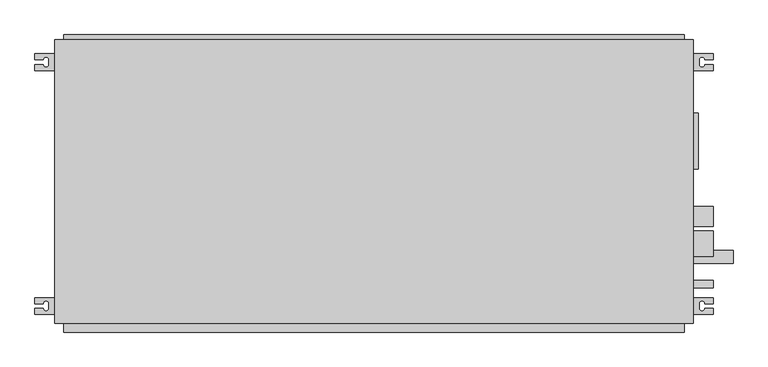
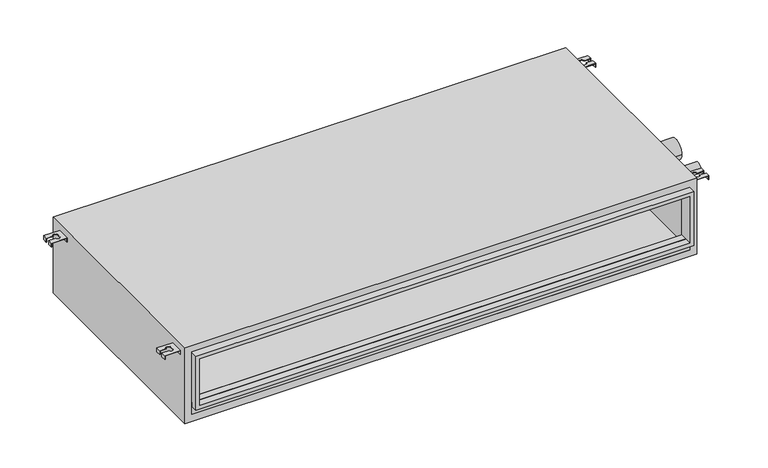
"""IFC4 building model written with IfcOpenShell, lengths in millimetres: proxy geometry, PEFY-P-NMAU-E_Medium_Static_Ducted : PEFY-P54NMAU-E."""

import ifcopenshell
import ifcopenshell.guid

model = None  # the IFC model being written
_history = None  # IfcOwnerHistory: only IFC2X3 demands one
_inside = {}  # id of a spatial element -> (the spatial element, [elements in it])
_under = {}  # id of a project, library or spatial element -> (it, [spatial elements below it])
_declared = {}  # id of a project -> (the project, [libraries it declares])
_typed = {}  # id of a type object -> (the type object, [elements of that type])
_made_of = {}  # id of a material, layer set ... -> (it, [elements and type objects made of it])


def new_model(schema):
    """Start an empty IFC model of exactly this schema.

    Asked for "IFC4X3", IfcOpenShell would pick the latest addendum, in which some entities
    have other attributes; the version numbers below select the first issue.
    IFC2X3 requires an IfcOwnerHistory on every rooted entity: one is made here for all.
    """
    global model, _history
    if schema == "IFC4X3":
        model = ifcopenshell.file(schema_version=(4, 3, 0, 0))
    else:
        model = ifcopenshell.file(schema=schema)
    _inside.clear()
    _under.clear()
    _declared.clear()
    _typed.clear()
    _made_of.clear()
    _history = None
    if model.schema == "IFC2X3":
        org = make("IfcOrganization", Name="unknown")
        user = make(
            "IfcPersonAndOrganization",
            ThePerson=make("IfcPerson", FamilyName="unknown"),
            TheOrganization=org,
        )
        app = make(
            "IfcApplication",
            ApplicationDeveloper=org,
            Version="unknown",
            ApplicationFullName="unknown",
            ApplicationIdentifier="unknown",
        )
        _history = make(
            "IfcOwnerHistory",
            OwningUser=user,
            OwningApplication=app,
            ChangeAction="ADDED",
            CreationDate=0,
        )
    return model


def make(cls, **values):
    """One entity of the class cls with the attributes given. An attribute that is None is left unset."""
    return model.create_entity(
        cls, **{name: value for name, value in values.items() if value is not None}
    )


def rooted(cls, **values):
    """An entity with a GlobalId (a new one), such as an element, a storey or a relation."""
    return make(cls, GlobalId=ifcopenshell.guid.new(), OwnerHistory=_history, **values)


def si_unit(unit_type, name, prefix=None):
    """IfcSIUnit, for example si_unit("LENGTHUNIT", "METRE", prefix="MILLI")."""
    return make("IfcSIUnit", UnitType=unit_type, Prefix=prefix, Name=name)


def assignment(units):
    """IfcUnitAssignment: the units of a project."""
    return None if units is None else make("IfcUnitAssignment", Units=units)


def point(xyz):
    """IfcCartesianPoint."""
    return None if xyz is None else make("IfcCartesianPoint", Coordinates=xyz)


def direction(xyz):
    """IfcDirection."""
    return None if xyz is None else make("IfcDirection", DirectionRatios=xyz)


def frame(location, z_axis=None, x_axis=None):
    """IfcAxis2Placement3D, a coordinate frame: its origin and axes. An axis left out is left unset."""
    return make(
        "IfcAxis2Placement3D",
        Location=point(location),
        Axis=direction(z_axis),
        RefDirection=direction(x_axis),
    )


def frame_2d(location, x_axis=None):
    """IfcAxis2Placement2D, a coordinate frame in the plane: its origin and x axis."""
    return make(
        "IfcAxis2Placement2D", Location=point(location), RefDirection=direction(x_axis)
    )


def origin():
    """The frame at (0, 0, 0) with its axes left unset."""
    return frame((0.0, 0.0, 0.0))


def place(relative_to, where):
    """IfcLocalPlacement: puts the frame where relative to a parent placement (None: the world)."""
    return make(
        "IfcLocalPlacement", PlacementRelTo=relative_to, RelativePlacement=where
    )


def context(
    kind, dimensions, precision=None, world=None, true_north=None, identifier=None
):
    """IfcGeometricRepresentationContext, for example the 3D "Model" context."""
    return make(
        "IfcGeometricRepresentationContext",
        ContextIdentifier=identifier,
        ContextType=kind,
        CoordinateSpaceDimension=dimensions,
        Precision=precision,
        WorldCoordinateSystem=world,
        TrueNorth=true_north,
    )


def project(units=None, contexts=None):
    """IfcProject with its units and contexts."""
    return rooted(
        "IfcProject",
        Name="project",
        RepresentationContexts=contexts,
        UnitsInContext=assignment(units),
    )


def spatial(cls, under=None, at=None, **own):
    """A site, building, storey or space (cls), placed at a placement, below another one or the project."""
    s = rooted(cls, ObjectPlacement=at, **own)
    if under is not None:
        _under.setdefault(under.id(), (under, []))[1].append(s)
    return s


def polyline(points):
    """IfcPolyline through the points."""
    return make("IfcPolyline", Points=[point(p) for p in points])


def circle_curve(where, radius):
    """IfcCircle in the frame where."""
    return make("IfcCircle", Position=where, Radius=radius)


def trimmed(basis, trim1, trim2, sense, master):
    """IfcTrimmedCurve: the piece of a basis curve between two trims."""
    return make(
        "IfcTrimmedCurve",
        BasisCurve=basis,
        Trim1=trim1,
        Trim2=trim2,
        SenseAgreement=sense,
        MasterRepresentation=master,
    )


def segment(curve, same_sense, transition):
    """IfcCompositeCurveSegment."""
    return make(
        "IfcCompositeCurveSegment",
        Transition=transition,
        SameSense=same_sense,
        ParentCurve=curve,
    )


def composite_curve(segments, self_intersect=None):
    """IfcCompositeCurve: segments joined end to end."""
    return make("IfcCompositeCurve", Segments=segments, SelfIntersect=self_intersect)


def outline(outer, holes=None, kind="AREA"):
    """IfcArbitraryClosedProfileDef: a profile drawn as a closed curve; with holes, ...WithVoids."""
    if holes is None:
        return make("IfcArbitraryClosedProfileDef", ProfileType=kind, OuterCurve=outer)
    return make(
        "IfcArbitraryProfileDefWithVoids",
        ProfileType=kind,
        OuterCurve=outer,
        InnerCurves=holes,
    )


def extrude(swept, where, along, depth):
    """IfcExtrudedAreaSolid: the profile swept, set in the frame where, extruded along a direction by depth."""
    return make(
        "IfcExtrudedAreaSolid",
        SweptArea=swept,
        Position=where,
        ExtrudedDirection=direction(along),
        Depth=depth,
    )


def shape(context_of_items, identifier, shape_type, items):
    """IfcShapeRepresentation: the items that make up one representation, for example the "Body"."""
    return make(
        "IfcShapeRepresentation",
        ContextOfItems=context_of_items,
        RepresentationIdentifier=identifier,
        RepresentationType=shape_type,
        Items=items,
    )


def source(mapping_origin, context_of_items, identifier, shape_type, items):
    """IfcRepresentationMap: a shape defined once, which mapped items show again and again."""
    return make(
        "IfcRepresentationMap",
        MappingOrigin=mapping_origin,
        MappedRepresentation=shape(context_of_items, identifier, shape_type, items),
    )


def transform(
    local_origin,
    x_axis=None,
    y_axis=None,
    z_axis=None,
    scale=None,
    scale2=None,
    scale3=None,
    uniform=True,
):
    """IfcCartesianTransformationOperator3D, or its non-uniform kind. x_axis, y_axis, z_axis: its Axis1, 2, 3."""
    if uniform:
        return make(
            "IfcCartesianTransformationOperator3D",
            Axis1=direction(x_axis),
            Axis2=direction(y_axis),
            LocalOrigin=point(local_origin),
            Scale=scale,
            Axis3=direction(z_axis),
        )
    return make(
        "IfcCartesianTransformationOperator3DnonUniform",
        Axis1=direction(x_axis),
        Axis2=direction(y_axis),
        LocalOrigin=point(local_origin),
        Scale=scale,
        Axis3=direction(z_axis),
        Scale2=scale2,
        Scale3=scale3,
    )


def mapped(mapping_source, mapping_target):
    """IfcMappedItem: shows the shape of a source again, moved by a transform."""
    return make(
        "IfcMappedItem", MappingSource=mapping_source, MappingTarget=mapping_target
    )


def made_of(thing, what):
    """Note that an element or type object is made of a material, layer set ...; save() writes the relation."""
    if what is not None:
        _made_of.setdefault(what.id(), (what, []))[1].append(thing)
    return thing


def element(
    cls,
    number,
    at=None,
    inside=None,
    cuts=None,
    type_object=None,
    material=None,
    context=None,
    identifier="Body",
    shape_type=None,
    held_by="IfcProductDefinitionShape",
    body=None,
    shapes=None,
    **own,
):
    """One element of the class cls, such as IfcWall. Its Tag is "e" and its number.

    at: its placement. inside: the storey or other place that contains it. cuts: it is an
    opening in that element (IfcRelVoidsElement). A single representation is given by context,
    identifier, shape_type and body (its items); several are given by shapes. held_by: the class
    of the entity that holds the representations. save() writes the other relations.
    """
    e = rooted(cls, Tag="e%d" % number, ObjectPlacement=at, **own)
    if body is not None:
        shapes = [shape(context, identifier, shape_type, body)]
    if shapes is not None:
        e.Representation = make(held_by, Representations=shapes)
    if inside is not None:
        _inside.setdefault(inside.id(), (inside, []))[1].append(e)
    if cuts is not None:
        rooted(
            "IfcRelVoidsElement", RelatingBuildingElement=cuts, RelatedOpeningElement=e
        )
    if type_object is not None:
        _typed.setdefault(type_object.id(), (type_object, []))[1].append(e)
    return made_of(e, material)


def aggregate(whole, parts):
    """IfcRelAggregates: a whole, such as a stair, and the parts it consists of."""
    return rooted("IfcRelAggregates", RelatingObject=whole, RelatedObjects=parts)


def save(model, path):
    """Write the relations noted so far, then the file.

    IfcRelAggregates (storeys below a building ...), IfcRelContainedInSpatialStructure (elements
    in a storey), IfcRelDefinesByType, IfcRelAssociatesMaterial and IfcRelDeclares: one each for
    every whole, place, type object, material and project.
    """
    for whole, parts in _under.values():
        aggregate(whole, parts)
    for where, things in _inside.values():
        rooted(
            "IfcRelContainedInSpatialStructure",
            RelatedElements=things,
            RelatingStructure=where,
        )
    for kind, things in _typed.values():
        rooted("IfcRelDefinesByType", RelatedObjects=things, RelatingType=kind)
    for what, things in _made_of.values():
        rooted("IfcRelAssociatesMaterial", RelatedObjects=things, RelatingMaterial=what)
    for by, libraries in _declared.values():
        rooted("IfcRelDeclares", RelatingContext=by, RelatedDefinitions=libraries)
    model.write(path)


def plane_surface(at):
    """IfcPlane: the flat surface through the origin of the frame at, square to its z axis."""
    return make("IfcPlane", Position=at)


def revolved_surface(curve, axis_point, axis_direction):
    """IfcSurfaceOfRevolution: the curve turned about the line through axis_point along axis_direction."""
    return make(
        "IfcSurfaceOfRevolution",
        SweptCurve=make("IfcArbitraryOpenProfileDef", ProfileType="CURVE", Curve=curve),
        AxisPosition=make("IfcAxis1Placement", Location=point(axis_point), Axis=direction(axis_direction)),
    )


def advanced_brep(points, edges, surfaces, faces):
    """IfcAdvancedBrep: a solid bounded by faces that lie on surfaces and meet in shared edges.

    An edge is (start, end): straight between two places in points (the first is 0);
    or (start, end, curve); or (start, end, curve, False) where it runs against its curve.
    A face is (place in surfaces, loops), or (place, loops, False) where it looks against
    its surface's normal. A loop lists edges by number (the first is 1), with a minus sign
    where the edge is run from its end to its start. The first loop is the outer one.
    """
    corners = [point(p) for p in points]
    vertices = [make("IfcVertexPoint", VertexGeometry=c) for c in corners]
    made = []
    for start, end, *more in edges:
        made.append(
            make(
                "IfcEdgeCurve",
                EdgeStart=vertices[start],
                EdgeEnd=vertices[end],
                EdgeGeometry=more[0] if more else make("IfcPolyline", Points=[corners[start], corners[end]]),
                SameSense=more[1] if len(more) > 1 else True,
            )
        )
    hull = []
    for where, loops, *sense in faces:
        bounds = []
        for j, loop in enumerate(loops):
            ring = [make("IfcOrientedEdge", EdgeElement=made[abs(k) - 1], Orientation=k > 0) for k in loop]
            bounds.append(
                make(
                    "IfcFaceOuterBound" if j == 0 else "IfcFaceBound",
                    Bound=make("IfcEdgeLoop", EdgeList=ring),
                    Orientation=True,
                )
            )
        hull.append(make("IfcAdvancedFace", Bounds=bounds, FaceSurface=surfaces[where], SameSense=sense[0] if sense else True))
    return make("IfcAdvancedBrep", Outer=make("IfcClosedShell", CfsFaces=hull))


def mechanical_equipment_8a2286fb(model_context):
    return source(origin(), model_context, "Body", "SolidModel", [
        advanced_brep(
        [(-860.118493, -231.05, 249.2375), (-860.118493, -246.05, 249.2375), (-839.112243, -246.05, 249.2375), (-825.112243, -246.05, 249.2375), (-825.112243, -258.05, 249.2375), (-839.112243, -258.05, 249.2375), (-860.118493, -258.05, 249.2375), (-860.118493, -273.05, 249.2375), (-810.112243, -273.05, 249.2375), (-810.112243, -231.05, 249.2375), (-860.118493, -231.05, 236.4972162), (-858.530493, -231.05, 236.4972162), (-858.530493, -246.05, 236.4972162), (-860.118493, -246.05, 236.4972162), (-858.530493, -273.05, 236.4972162), (-860.118493, -273.05, 236.4972162), (-860.118493, -258.05, 236.4972162), (-858.530493, -258.05, 236.4972162), (-810.112243, -231.05, 236.4972162), (-810.112243, -273.05, 236.4972162), (-811.700243, -273.05, 236.4972162), (-811.700243, -231.05, 236.4972162), (-858.530493, -246.05, 247.65), (-839.112243, -246.05, 247.65), (-858.530493, -231.05, 247.65), (-811.700243, -231.05, 247.65), (-858.530493, -258.05, 247.65), (-858.530493, -273.05, 247.65), (-839.112243, -258.05, 247.65), (-811.700243, -273.05, 247.65), (-825.112243, -258.05, 247.65), (-825.112243, -246.05, 247.65)],
        [
            (0, 1),
            (1, 2),
            (2, 3, circle_curve(frame((-832.112243, -246.05, 249.2375), z_axis=(0.0, 0.0, -1.0), x_axis=(1.0, 0.0, 0.0)), 7.0)),
            (3, 4),
            (4, 5, circle_curve(frame((-832.112243, -258.05, 249.2375), z_axis=(0.0, 0.0, -1.0), x_axis=(1.0, 0.0, 0.0)), 7.0)),
            (5, 6),
            (6, 7),
            (7, 8),
            (8, 9),
            (9, 0),
            (10, 11),
            (11, 12),
            (12, 13),
            (13, 10),
            (14, 15),
            (15, 16),
            (16, 17),
            (17, 14),
            (18, 19),
            (19, 20),
            (20, 21),
            (21, 18),
            (13, 1),
            (0, 10),
            (12, 22),
            (22, 23),
            (23, 2),
            (11, 24),
            (24, 22),
            (9, 18),
            (21, 25),
            (25, 24),
            (17, 26),
            (26, 27),
            (27, 14),
            (5, 28),
            (28, 26),
            (16, 6),
            (15, 7),
            (27, 29),
            (29, 20),
            (19, 8),
            (29, 25),
            (30, 31),
            (31, 23, circle_curve(frame((-832.112243, -246.05, 247.65), z_axis=(0.0, 0.0, 1.0), x_axis=(1.0, 0.0, 0.0)), 7.0)),
            (28, 30, circle_curve(frame((-832.112243, -258.05, 247.65), z_axis=(0.0, 0.0, 1.0), x_axis=(1.0, 0.0, 0.0)), 7.0)),
            (4, 30),
            (31, 3),
        ],
        [
            plane_surface(frame((-860.118493, -231.05, 249.2375), z_axis=(0.0, 0.0, 1.0), x_axis=(0.0, -1.0, 0.0))),
            plane_surface(frame((-860.118493, -231.05, 236.4972162), z_axis=(0.0, 0.0, -1.0), x_axis=(0.0, 1.0, 0.0))),
            plane_surface(frame((-860.118493, -231.05, 249.2375), z_axis=(-1.0, 0.0, 0.0), x_axis=(0.0, 0.0, -1.0))),
            plane_surface(frame((-860.118493, -246.05, 249.2375), z_axis=(0.0, -1.0, 0.0), x_axis=(0.0, 0.0, -1.0))),
            plane_surface(frame((-858.530493, -246.05, 249.2375), z_axis=(1.0, 0.0, 0.0), x_axis=(0.0, 0.0, -1.0))),
            plane_surface(frame((-858.530493, -231.05, 249.2375), z_axis=(0.0, 1.0, 0.0), x_axis=(0.0, 0.0, -1.0))),
            plane_surface(frame((-858.530493, -273.05, 249.2375), z_axis=(1.0, 0.0, 0.0), x_axis=(0.0, 0.0, -1.0))),
            plane_surface(frame((-858.530493, -258.05, 249.2375), z_axis=(0.0, 1.0, 0.0), x_axis=(0.0, 0.0, -1.0))),
            plane_surface(frame((-860.118493, -258.05, 249.2375), z_axis=(-1.0, 0.0, 0.0), x_axis=(0.0, 0.0, -1.0))),
            plane_surface(frame((-860.118493, -273.05, 249.2375), z_axis=(0.0, -1.0, 0.0), x_axis=(0.0, 0.0, -1.0))),
            plane_surface(frame((-811.700243, -231.05, 249.2375), z_axis=(-1.0, 0.0, 0.0), x_axis=(0.0, 0.0, -1.0))),
            plane_surface(frame((-810.112243, -273.05, 249.2375), z_axis=(1.0, 0.0, 0.0), x_axis=(0.0, 0.0, -1.0))),
            plane_surface(frame((-825.112243, -258.05, 247.65), z_axis=(0.0, 0.0, -1.0), x_axis=(0.0, 1.0, 0.0))),
            revolved_surface(polyline([(-825.112243, -258.05, 247.65), (-825.112243, -258.05, 249.2375)]), (-832.112243, -258.05, 247.65), (0.0, 0.0, -1.0)),
            revolved_surface(polyline([(-825.112243, -246.05, 247.65), (-825.112243, -246.05, 249.2375)]), (-832.112243, -246.05, 247.65), (0.0, 0.0, -1.0)),
            plane_surface(frame((-825.112243, -246.05, 249.2375), z_axis=(-1.0, 0.0, 0.0), x_axis=(0.0, 0.0, -1.0))),
        ],
        [
            (0, [[1, 2, 3, 4, 5, 6, 7, 8, 9, 10]]),
            (1, [[11, 12, 13, 14]]),
            (1, [[15, 16, 17, 18]]),
            (1, [[19, 20, 21, 22]]),
            (2, [[23, -1, 24, -14]]),
            (3, [[-2, -23, -13, 25, 26, 27]]),
            (4, [[-12, 28, 29, -25]]),
            (5, [[-10, 30, -22, 31, 32, -28, -11, -24]]),
            (6, [[-18, 33, 34, 35]]),
            (7, [[-6, 36, 37, -33, -17, 38]]),
            (8, [[39, -7, -38, -16]]),
            (9, [[-8, -39, -15, -35, 40, 41, -20, 42]]),
            (10, [[-21, -41, 43, -31]]),
            (11, [[-30, -9, -42, -19]]),
            (12, [[44, 45, -26, -29, -32, -43, -40, -34, -37, 46]]),
            (13, [[-5, 47, -46, -36]]),
            (14, [[-3, -27, -45, 48]]),
            (15, [[-4, -48, -44, -47]]),
        ],
    ),
        advanced_brep(
        [(840.094007, -231.05, 249.2375), (790.087757, -231.05, 249.2375), (790.087757, -273.05, 249.2375), (840.094007, -273.05, 249.2375), (840.094007, -258.05, 249.2375), (819.087757, -258.05, 249.2375), (805.087757, -258.05, 249.2375), (805.087757, -246.05, 249.2375), (819.087757, -246.05, 249.2375), (840.094007, -246.05, 249.2375), (840.094007, -231.05, 236.4972162), (840.094007, -246.05, 236.4972162), (838.506007, -246.05, 236.4972162), (838.506007, -231.05, 236.4972162), (838.506007, -273.05, 236.4972162), (838.506007, -258.05, 236.4972162), (840.094007, -258.05, 236.4972162), (840.094007, -273.05, 236.4972162), (790.087757, -231.05, 236.4972162), (791.675757, -231.05, 236.4972162), (791.675757, -273.05, 236.4972162), (790.087757, -273.05, 236.4972162), (819.087757, -246.05, 247.65), (838.506007, -246.05, 247.65), (838.506007, -231.05, 247.65), (791.675757, -231.05, 247.65), (838.506007, -273.05, 247.65), (838.506007, -258.05, 247.65), (819.087757, -258.05, 247.65), (791.675757, -273.05, 247.65), (805.087757, -258.05, 247.65), (805.087757, -246.05, 247.65)],
        [
            (0, 1),
            (1, 2),
            (2, 3),
            (3, 4),
            (4, 5),
            (5, 6, circle_curve(frame((812.087757, -258.05, 249.2375), z_axis=(0.0, 0.0, -1.0), x_axis=(-1.0, 0.0, 0.0)), 7.0)),
            (6, 7),
            (7, 8, circle_curve(frame((812.087757, -246.05, 249.2375), z_axis=(0.0, 0.0, -1.0), x_axis=(-1.0, 0.0, 0.0)), 7.0)),
            (8, 9),
            (9, 0),
            (10, 11),
            (11, 12),
            (12, 13),
            (13, 10),
            (14, 15),
            (15, 16),
            (16, 17),
            (17, 14),
            (18, 19),
            (19, 20),
            (20, 21),
            (21, 18),
            (10, 0),
            (9, 11),
            (8, 22),
            (22, 23),
            (23, 12),
            (23, 24),
            (24, 13),
            (24, 25),
            (25, 19),
            (18, 1),
            (14, 26),
            (26, 27),
            (27, 15),
            (4, 16),
            (27, 28),
            (28, 5),
            (3, 17),
            (2, 21),
            (20, 29),
            (29, 26),
            (25, 29),
            (30, 28, circle_curve(frame((812.087757, -258.05, 247.65), z_axis=(0.0, 0.0, 1.0), x_axis=(-1.0, 0.0, 0.0)), 7.0)),
            (22, 31, circle_curve(frame((812.087757, -246.05, 247.65), z_axis=(0.0, 0.0, 1.0), x_axis=(-1.0, 0.0, 0.0)), 7.0)),
            (31, 30),
            (30, 6),
            (7, 31),
        ],
        [
            plane_surface(frame((840.094007, -231.05, 249.2375), z_axis=(0.0, 0.0, 1.0), x_axis=(0.0, -1.0, 0.0))),
            plane_surface(frame((840.094007, -231.05, 236.4972162), z_axis=(0.0, 0.0, -1.0), x_axis=(0.0, 1.0, 0.0))),
            plane_surface(frame((840.094007, -231.05, 249.2375), z_axis=(1.0, 0.0, 0.0), x_axis=(0.0, 0.0, -1.0))),
            plane_surface(frame((840.094007, -246.05, 249.2375), z_axis=(0.0, -1.0, 0.0), x_axis=(0.0, 0.0, -1.0))),
            plane_surface(frame((838.506007, -246.05, 249.2375), z_axis=(-1.0, 0.0, 0.0), x_axis=(0.0, 0.0, -1.0))),
            plane_surface(frame((838.506007, -231.05, 249.2375), z_axis=(0.0, 1.0, 0.0), x_axis=(0.0, 0.0, -1.0))),
            plane_surface(frame((838.506007, -273.05, 249.2375), z_axis=(-1.0, 0.0, 0.0), x_axis=(0.0, 0.0, -1.0))),
            plane_surface(frame((838.506007, -258.05, 249.2375), z_axis=(0.0, 1.0, 0.0), x_axis=(0.0, 0.0, -1.0))),
            plane_surface(frame((840.094007, -258.05, 249.2375), z_axis=(1.0, 0.0, 0.0), x_axis=(0.0, 0.0, -1.0))),
            plane_surface(frame((840.094007, -273.05, 249.2375), z_axis=(0.0, -1.0, 0.0), x_axis=(0.0, 0.0, -1.0))),
            plane_surface(frame((791.675757, -231.05, 249.2375), z_axis=(1.0, 0.0, 0.0), x_axis=(0.0, 0.0, -1.0))),
            plane_surface(frame((790.087757, -273.05, 249.2375), z_axis=(-1.0, 0.0, 0.0), x_axis=(0.0, 0.0, -1.0))),
            plane_surface(frame((805.087757, -258.05, 247.65), z_axis=(0.0, 0.0, -1.0), x_axis=(0.0, 1.0, 0.0))),
            revolved_surface(polyline([(805.087757, -258.05, 247.65), (805.087757, -258.05, 249.2375)]), (812.087757, -258.05, 247.65), (0.0, 0.0, -1.0)),
            revolved_surface(polyline([(805.087757, -246.05, 247.65), (805.087757, -246.05, 249.2375)]), (812.087757, -246.05, 247.65), (0.0, 0.0, -1.0)),
            plane_surface(frame((805.087757, -246.05, 249.2375), z_axis=(1.0, 0.0, 0.0), x_axis=(0.0, 0.0, -1.0))),
        ],
        [
            (0, [[1, 2, 3, 4, 5, 6, 7, 8, 9, 10]]),
            (1, [[11, 12, 13, 14]]),
            (1, [[15, 16, 17, 18]]),
            (1, [[19, 20, 21, 22]]),
            (2, [[-11, 23, -10, 24]]),
            (3, [[25, 26, 27, -12, -24, -9]]),
            (4, [[-27, 28, 29, -13]]),
            (5, [[-23, -14, -29, 30, 31, -19, 32, -1]]),
            (6, [[33, 34, 35, -15]]),
            (7, [[36, -16, -35, 37, 38, -5]]),
            (8, [[-17, -36, -4, 39]]),
            (9, [[40, -21, 41, 42, -33, -18, -39, -3]]),
            (10, [[-31, 43, -41, -20]]),
            (11, [[-22, -40, -2, -32]]),
            (12, [[44, -37, -34, -42, -43, -30, -28, -26, 45, 46]]),
            (13, [[-38, -44, 47, -6]]),
            (14, [[48, -45, -25, -8]]),
            (15, [[-47, -46, -48, -7]]),
        ],
    ),
        advanced_brep(
        [(-860.118493, 339.0, 249.2375), (-810.112243, 339.0, 249.2375), (-810.112243, 381.0, 249.2375), (-860.118493, 381.0, 249.2375), (-860.118493, 366.0, 249.2375), (-839.112243, 366.0, 249.2375), (-825.112243, 366.0, 249.2375), (-825.112243, 354.0, 249.2375), (-839.112243, 354.0, 249.2375), (-860.118493, 354.0, 249.2375), (-860.118493, 339.0, 236.4972162), (-860.118493, 354.0, 236.4972162), (-858.530493, 354.0, 236.4972162), (-858.530493, 339.0, 236.4972162), (-858.530493, 381.0, 236.4972162), (-858.530493, 366.0, 236.4972162), (-860.118493, 366.0, 236.4972162), (-860.118493, 381.0, 236.4972162), (-810.112243, 339.0, 236.4972162), (-811.700243, 339.0, 236.4972162), (-811.700243, 381.0, 236.4972162), (-810.112243, 381.0, 236.4972162), (-839.112243, 354.0, 247.65), (-858.530493, 354.0, 247.65), (-858.530493, 339.0, 247.65), (-811.700243, 339.0, 247.65), (-858.530493, 381.0, 247.65), (-858.530493, 366.0, 247.65), (-839.112243, 366.0, 247.65), (-811.700243, 381.0, 247.65), (-825.112243, 366.0, 247.65), (-825.112243, 354.0, 247.65)],
        [
            (0, 1),
            (1, 2),
            (2, 3),
            (3, 4),
            (4, 5),
            (5, 6, circle_curve(frame((-832.112243, 366.0, 249.2375), z_axis=(0.0, 0.0, -1.0), x_axis=(1.0, 0.0, 0.0)), 7.0)),
            (6, 7),
            (7, 8, circle_curve(frame((-832.112243, 354.0, 249.2375), z_axis=(0.0, 0.0, -1.0), x_axis=(1.0, 0.0, 0.0)), 7.0)),
            (8, 9),
            (9, 0),
            (10, 11),
            (11, 12),
            (12, 13),
            (13, 10),
            (14, 15),
            (15, 16),
            (16, 17),
            (17, 14),
            (18, 19),
            (19, 20),
            (20, 21),
            (21, 18),
            (10, 0),
            (9, 11),
            (8, 22),
            (22, 23),
            (23, 12),
            (23, 24),
            (24, 13),
            (24, 25),
            (25, 19),
            (18, 1),
            (14, 26),
            (26, 27),
            (27, 15),
            (4, 16),
            (27, 28),
            (28, 5),
            (3, 17),
            (2, 21),
            (20, 29),
            (29, 26),
            (25, 29),
            (30, 28, circle_curve(frame((-832.112243, 366.0, 247.65), z_axis=(0.0, 0.0, 1.0), x_axis=(1.0, 0.0, 0.0)), 7.0)),
            (22, 31, circle_curve(frame((-832.112243, 354.0, 247.65), z_axis=(0.0, 0.0, 1.0), x_axis=(1.0, 0.0, 0.0)), 7.0)),
            (31, 30),
            (30, 6),
            (7, 31),
        ],
        [
            plane_surface(frame((-860.118493, 339.0, 249.2375), z_axis=(0.0, 0.0, 1.0), x_axis=(0.0, 1.0, 0.0))),
            plane_surface(frame((-860.118493, 339.0, 236.4972162), z_axis=(0.0, 0.0, -1.0), x_axis=(0.0, -1.0, 0.0))),
            plane_surface(frame((-860.118493, 339.0, 249.2375), z_axis=(-1.0, 0.0, 0.0), x_axis=(0.0, 0.0, -1.0))),
            plane_surface(frame((-860.118493, 354.0, 249.2375), z_axis=(0.0, 1.0, 0.0), x_axis=(0.0, 0.0, -1.0))),
            plane_surface(frame((-858.530493, 354.0, 249.2375), z_axis=(1.0, 0.0, 0.0), x_axis=(0.0, 0.0, -1.0))),
            plane_surface(frame((-858.530493, 339.0, 249.2375), z_axis=(0.0, -1.0, 0.0), x_axis=(0.0, 0.0, -1.0))),
            plane_surface(frame((-858.530493, 381.0, 249.2375), z_axis=(1.0, 0.0, 0.0), x_axis=(0.0, 0.0, -1.0))),
            plane_surface(frame((-858.530493, 366.0, 249.2375), z_axis=(0.0, -1.0, 0.0), x_axis=(0.0, 0.0, -1.0))),
            plane_surface(frame((-860.118493, 366.0, 249.2375), z_axis=(-1.0, 0.0, 0.0), x_axis=(0.0, 0.0, -1.0))),
            plane_surface(frame((-860.118493, 381.0, 249.2375), z_axis=(0.0, 1.0, 0.0), x_axis=(0.0, 0.0, -1.0))),
            plane_surface(frame((-811.700243, 339.0, 249.2375), z_axis=(-1.0, 0.0, 0.0), x_axis=(0.0, 0.0, -1.0))),
            plane_surface(frame((-810.112243, 381.0, 249.2375), z_axis=(1.0, 0.0, 0.0), x_axis=(0.0, 0.0, -1.0))),
            plane_surface(frame((-825.112243, 366.0, 247.65), z_axis=(0.0, 0.0, -1.0), x_axis=(0.0, -1.0, 0.0))),
            revolved_surface(polyline([(-825.112243, 366.0, 247.65), (-825.112243, 366.0, 249.2375)]), (-832.112243, 366.0, 247.65), (0.0, 0.0, -1.0)),
            revolved_surface(polyline([(-825.112243, 354.0, 247.65), (-825.112243, 354.0, 249.2375)]), (-832.112243, 354.0, 247.65), (0.0, 0.0, -1.0)),
            plane_surface(frame((-825.112243, 354.0, 249.2375), z_axis=(-1.0, 0.0, 0.0), x_axis=(0.0, 0.0, -1.0))),
        ],
        [
            (0, [[1, 2, 3, 4, 5, 6, 7, 8, 9, 10]]),
            (1, [[11, 12, 13, 14]]),
            (1, [[15, 16, 17, 18]]),
            (1, [[19, 20, 21, 22]]),
            (2, [[-11, 23, -10, 24]]),
            (3, [[25, 26, 27, -12, -24, -9]]),
            (4, [[-27, 28, 29, -13]]),
            (5, [[-23, -14, -29, 30, 31, -19, 32, -1]]),
            (6, [[33, 34, 35, -15]]),
            (7, [[36, -16, -35, 37, 38, -5]]),
            (8, [[-17, -36, -4, 39]]),
            (9, [[40, -21, 41, 42, -33, -18, -39, -3]]),
            (10, [[-31, 43, -41, -20]]),
            (11, [[-22, -40, -2, -32]]),
            (12, [[44, -37, -34, -42, -43, -30, -28, -26, 45, 46]]),
            (13, [[-38, -44, 47, -6]]),
            (14, [[48, -45, -25, -8]]),
            (15, [[-47, -46, -48, -7]]),
        ],
    ),
        advanced_brep(
        [(840.094007, 339.0, 249.2375), (840.094007, 354.0, 249.2375), (819.087757, 354.0, 249.2375), (805.087757, 354.0, 249.2375), (805.087757, 366.0, 249.2375), (819.087757, 366.0, 249.2375), (840.094007, 366.0, 249.2375), (840.094007, 381.0, 249.2375), (790.087757, 381.0, 249.2375), (790.087757, 339.0, 249.2375), (840.094007, 339.0, 236.4972162), (838.506007, 339.0, 236.4972162), (838.506007, 354.0, 236.4972162), (840.094007, 354.0, 236.4972162), (838.506007, 381.0, 236.4972162), (840.094007, 381.0, 236.4972162), (840.094007, 366.0, 236.4972162), (838.506007, 366.0, 236.4972162), (790.087757, 339.0, 236.4972162), (790.087757, 381.0, 236.4972162), (791.675757, 381.0, 236.4972162), (791.675757, 339.0, 236.4972162), (838.506007, 354.0, 247.65), (819.087757, 354.0, 247.65), (838.506007, 339.0, 247.65), (791.675757, 339.0, 247.65), (838.506007, 366.0, 247.65), (838.506007, 381.0, 247.65), (819.087757, 366.0, 247.65), (791.675757, 381.0, 247.65), (805.087757, 366.0, 247.65), (805.087757, 354.0, 247.65)],
        [
            (0, 1),
            (1, 2),
            (2, 3, circle_curve(frame((812.087757, 354.0, 249.2375), z_axis=(0.0, 0.0, -1.0), x_axis=(-1.0, 0.0, 0.0)), 7.0)),
            (3, 4),
            (4, 5, circle_curve(frame((812.087757, 366.0, 249.2375), z_axis=(0.0, 0.0, -1.0), x_axis=(-1.0, 0.0, 0.0)), 7.0)),
            (5, 6),
            (6, 7),
            (7, 8),
            (8, 9),
            (9, 0),
            (10, 11),
            (11, 12),
            (12, 13),
            (13, 10),
            (14, 15),
            (15, 16),
            (16, 17),
            (17, 14),
            (18, 19),
            (19, 20),
            (20, 21),
            (21, 18),
            (13, 1),
            (0, 10),
            (12, 22),
            (22, 23),
            (23, 2),
            (11, 24),
            (24, 22),
            (9, 18),
            (21, 25),
            (25, 24),
            (17, 26),
            (26, 27),
            (27, 14),
            (5, 28),
            (28, 26),
            (16, 6),
            (15, 7),
            (27, 29),
            (29, 20),
            (19, 8),
            (29, 25),
            (30, 31),
            (31, 23, circle_curve(frame((812.087757, 354.0, 247.65), z_axis=(0.0, 0.0, 1.0), x_axis=(-1.0, 0.0, 0.0)), 7.0)),
            (28, 30, circle_curve(frame((812.087757, 366.0, 247.65), z_axis=(0.0, 0.0, 1.0), x_axis=(-1.0, 0.0, 0.0)), 7.0)),
            (4, 30),
            (31, 3),
        ],
        [
            plane_surface(frame((840.094007, 339.0, 249.2375), z_axis=(0.0, 0.0, 1.0), x_axis=(0.0, 1.0, 0.0))),
            plane_surface(frame((840.094007, 339.0, 236.4972162), z_axis=(0.0, 0.0, -1.0), x_axis=(0.0, -1.0, 0.0))),
            plane_surface(frame((840.094007, 339.0, 249.2375), z_axis=(1.0, 0.0, 0.0), x_axis=(0.0, 0.0, -1.0))),
            plane_surface(frame((840.094007, 354.0, 249.2375), z_axis=(0.0, 1.0, 0.0), x_axis=(0.0, 0.0, -1.0))),
            plane_surface(frame((838.506007, 354.0, 249.2375), z_axis=(-1.0, 0.0, 0.0), x_axis=(0.0, 0.0, -1.0))),
            plane_surface(frame((838.506007, 339.0, 249.2375), z_axis=(0.0, -1.0, 0.0), x_axis=(0.0, 0.0, -1.0))),
            plane_surface(frame((838.506007, 381.0, 249.2375), z_axis=(-1.0, 0.0, 0.0), x_axis=(0.0, 0.0, -1.0))),
            plane_surface(frame((838.506007, 366.0, 249.2375), z_axis=(0.0, -1.0, 0.0), x_axis=(0.0, 0.0, -1.0))),
            plane_surface(frame((840.094007, 366.0, 249.2375), z_axis=(1.0, 0.0, 0.0), x_axis=(0.0, 0.0, -1.0))),
            plane_surface(frame((840.094007, 381.0, 249.2375), z_axis=(0.0, 1.0, 0.0), x_axis=(0.0, 0.0, -1.0))),
            plane_surface(frame((791.675757, 339.0, 249.2375), z_axis=(1.0, 0.0, 0.0), x_axis=(0.0, 0.0, -1.0))),
            plane_surface(frame((790.087757, 381.0, 249.2375), z_axis=(-1.0, 0.0, 0.0), x_axis=(0.0, 0.0, -1.0))),
            plane_surface(frame((805.087757, 366.0, 247.65), z_axis=(0.0, 0.0, -1.0), x_axis=(0.0, -1.0, 0.0))),
            revolved_surface(polyline([(805.087757, 366.0, 247.65), (805.087757, 366.0, 249.2375)]), (812.087757, 366.0, 247.65), (0.0, 0.0, -1.0)),
            revolved_surface(polyline([(805.087757, 354.0, 247.65), (805.087757, 354.0, 249.2375)]), (812.087757, 354.0, 247.65), (0.0, 0.0, -1.0)),
            plane_surface(frame((805.087757, 354.0, 249.2375), z_axis=(1.0, 0.0, 0.0), x_axis=(0.0, 0.0, -1.0))),
        ],
        [
            (0, [[1, 2, 3, 4, 5, 6, 7, 8, 9, 10]]),
            (1, [[11, 12, 13, 14]]),
            (1, [[15, 16, 17, 18]]),
            (1, [[19, 20, 21, 22]]),
            (2, [[23, -1, 24, -14]]),
            (3, [[-2, -23, -13, 25, 26, 27]]),
            (4, [[-12, 28, 29, -25]]),
            (5, [[-10, 30, -22, 31, 32, -28, -11, -24]]),
            (6, [[-18, 33, 34, 35]]),
            (7, [[-6, 36, 37, -33, -17, 38]]),
            (8, [[39, -7, -38, -16]]),
            (9, [[-8, -39, -15, -35, 40, 41, -20, 42]]),
            (10, [[-21, -41, 43, -31]]),
            (11, [[-30, -9, -42, -19]]),
            (12, [[44, 45, -26, -29, -32, -43, -40, -34, -37, 46]]),
            (13, [[-5, 47, -46, -36]]),
            (14, [[-3, -27, -45, 48]]),
            (15, [[-4, -48, -44, -47]]),
        ],
    ),
        extrude(outline(polyline([(767.862757, -295.275), (-787.887243, -295.275), (-787.887243, -273.05), (767.862757, -273.05), (767.862757, -295.275)])), frame((0.0, 0.0, 42.8625), z_axis=(0.0, 0.0, 1.0), x_axis=(1.0, 0.0, 0.0)), (0.0, 0.0, 1.0), 39.6875),
        extrude(outline(polyline([(249.2375, 767.862757), (249.2375, -787.887243), (69.85, -787.887243), (69.85, 767.862757), (249.2375, 767.862757)]), holes=[polyline([(82.55, 755.162757), (82.55, -775.187243), (236.5375, -775.187243), (236.5375, 755.162757), (82.55, 755.162757)])]), frame((0.0, -317.5, 0.0), z_axis=(0.0, 1.0, 0.0), x_axis=(0.0, 0.0, 1.0)), (0.0, 0.0, 1.0), 44.45),
        extrude(outline(polyline([(767.862757, 415.925), (-787.887243, 415.925), (-787.887243, 428.625), (767.862757, 428.625), (767.862757, 415.925)])), frame((0.0, 0.0, 42.8625), z_axis=(0.0, 0.0, 1.0), x_axis=(1.0, 0.0, 0.0)), (0.0, 0.0, 1.0), 206.375),
        extrude(outline(polyline([(271.4625, 790.087757), (271.4625, -810.112243), (20.6375, -810.112243), (20.6375, 790.087757), (271.4625, 790.087757)]), holes=[polyline([(42.8625, -787.887243), (249.2375, -787.887243), (249.2375, 767.862757), (42.8625, 767.862757), (42.8625, -787.887243)])]), frame((0.0, -295.275, 0.0), z_axis=(0.0, 1.0, 0.0), x_axis=(0.0, 0.0, 1.0)), (0.0, 0.0, 1.0), 711.2),
        extrude(outline(composite_curve([segment(trimmed(circle_curve(frame_2d((-26.9875, 109.5375)), 25.4), [point((-1.5875, 109.5375))], [point((-52.3875, 109.5375))], False, "CARTESIAN"), True, "CONTINUOUS"), segment(trimmed(circle_curve(frame_2d((-26.9875, 109.5375)), 25.4), [point((-52.3875, 109.5375))], [point((-1.5875, 109.5375))], False, "CARTESIAN"), True, "CONTINUOUS")], self_intersect=False)), frame((790.087757, 0.0, 0.0), z_axis=(1.0, 0.0, 0.0), x_axis=(0.0, 1.0, 0.0)), (0.0, 0.0, 1.0), 50.00625),
        extrude(outline(composite_curve([segment(trimmed(circle_curve(frame_2d((-128.5875, 171.45)), 15.875), [point((-112.7125, 171.45))], [point((-144.4625, 171.45))], False, "CARTESIAN"), True, "CONTINUOUS"), segment(trimmed(circle_curve(frame_2d((-128.5875, 171.45)), 15.875), [point((-144.4625, 171.45))], [point((-112.7125, 171.45))], False, "CARTESIAN"), True, "CONTINUOUS")], self_intersect=False)), frame((790.087757, 0.0, 0.0), z_axis=(1.0, 0.0, 0.0), x_axis=(0.0, 1.0, 0.0)), (0.0, 0.0, 1.0), 100.0125),
        extrude(outline(composite_curve([segment(trimmed(circle_curve(frame_2d((-95.25, 230.1875)), 31.75), [point((-63.5, 230.1875))], [point((-127.0, 230.1875))], False, "CARTESIAN"), True, "CONTINUOUS"), segment(trimmed(circle_curve(frame_2d((-95.25, 230.1875)), 31.75), [point((-127.0, 230.1875))], [point((-63.5, 230.1875))], False, "CARTESIAN"), True, "CONTINUOUS")], self_intersect=False)), frame((790.087757, 0.0, 0.0), z_axis=(1.0, 0.0, 0.0), x_axis=(0.0, 1.0, 0.0)), (0.0, 0.0, 1.0), 50.00625),
        extrude(outline(composite_curve([segment(trimmed(circle_curve(frame_2d((-196.85, 104.775)), 9.525), [point((-187.325, 104.775))], [point((-206.375, 104.775))], False, "CARTESIAN"), True, "CONTINUOUS"), segment(trimmed(circle_curve(frame_2d((-196.85, 104.775)), 9.525), [point((-206.375, 104.775))], [point((-187.325, 104.775))], False, "CARTESIAN"), True, "CONTINUOUS")], self_intersect=False)), frame((790.087757, 0.0, 0.0), z_axis=(1.0, 0.0, 0.0), x_axis=(0.0, 1.0, 0.0)), (0.0, 0.0, 1.0), 50.00625),
        extrude(outline(polyline([(802.787757, 231.84375), (802.787757, 92.14375), (790.087757, 92.14375), (790.087757, 231.84375), (802.787757, 231.84375)])), frame((0.0, 0.0, 42.8625), z_axis=(0.0, 0.0, 1.0), x_axis=(1.0, 0.0, 0.0)), (0.0, 0.0, 1.0), 187.325),
    ])


if __name__ == "__main__":
    model = new_model("IFC4")
    model_context = context("Model", 3, world=origin())
    ifc_project = project(units=[si_unit("LENGTHUNIT", "METRE", prefix="MILLI")], contexts=[model_context])
    site = spatial("IfcSite", under=ifc_project)
    building = spatial("IfcBuilding", under=site)
    placement = place(None, origin())
    mechanical_equipment_shape = mechanical_equipment_8a2286fb(model_context)
    element("IfcBuildingElementProxy", 1, Name="PEFY-P-NMAU-E_Medium_Static_Ducted : PEFY-P54NMAU-E", ObjectType="PEFY-P-NMAU-E_Medium_Static_Ducted : PEFY-P54NMAU-E", at=placement, inside=building, context=model_context, shape_type="MappedRepresentation", body=[
        mapped(mechanical_equipment_shape, transform((0.0, 0.0, 0.0), x_axis=(1.0, 0.0, 0.0), y_axis=(0.0, 1.0, 0.0), z_axis=(0.0, 0.0, 1.0))),
    ])
    save(model, "model.ifc")
